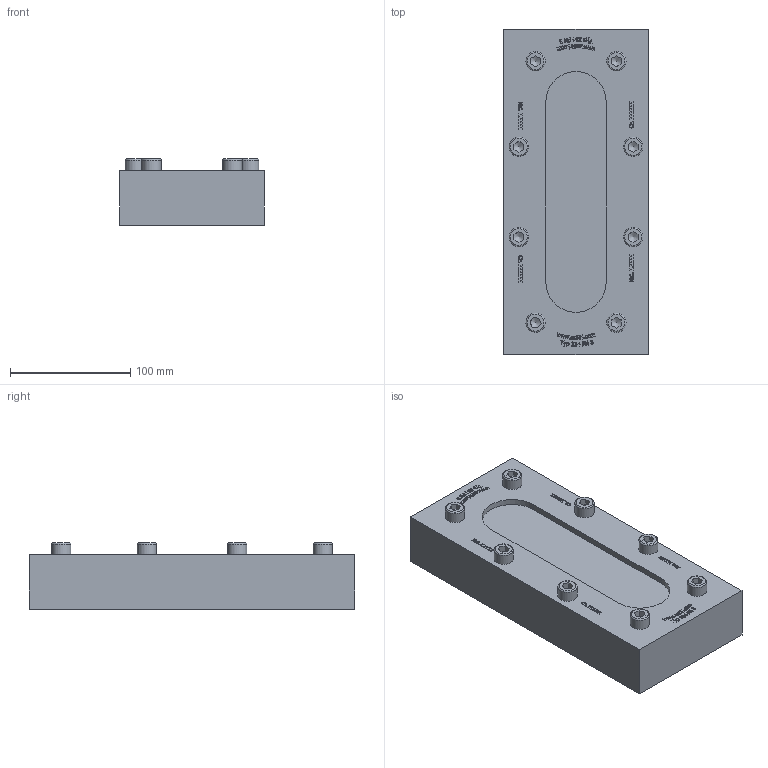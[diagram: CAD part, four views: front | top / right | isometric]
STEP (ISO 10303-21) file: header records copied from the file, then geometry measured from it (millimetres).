
FILE_DESCRIPTION(/* description */ (''),/* implementation_level */ '2;1');
FILE_NAME(/* name */ 'W:\Konstruktion_ACI\334\_Zeichnungen\STEP\ACI-334-270-3.stp',/* time_stamp */ '2022-03-02T16:18:41+01:00',/* author */ ('Travnicek'),/* organization */ (''),/* preprocessor_version */ 'ST-DEVELOPER v16.1',/* originating_system */ 'Autodesk Inventor 2016',/* authorisation */ '');
FILE_SCHEMA (('AUTOMOTIVE_DESIGN { 1 0 10303 214 3 1 1 }'));
Length unit declared in the file: centimetre
Products named in the file (1): 334
Bounding box: 120 x 270 x 54.96 mm (x, y, z)
Volume: 1245202.8 mm3; surface area: 117089.9 mm2
Topology: 1 solids, 1 shells, 1298 faces, 3568 edges, 2376 vertices
Faces by surface type: plane 898, bspline 372, cylinder 12, torus 8, cone 8
Full cylindrical faces by diameter (mm): 16 x8
Entity records: 43614 total; most frequent: CARTESIAN_POINT 12119, ORIENTED_EDGE 7056, DIRECTION 4622, EDGE_CURVE 3528, LINE 2704, VECTOR 2704, VERTEX_POINT 2360, EDGE_LOOP 1426
